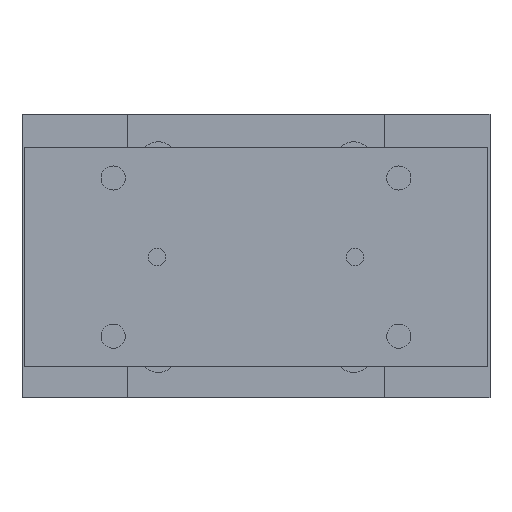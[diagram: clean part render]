
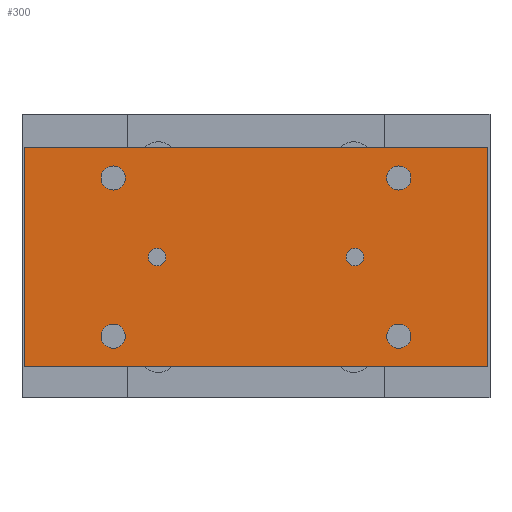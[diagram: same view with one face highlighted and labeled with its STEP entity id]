
A CAD part, left-side view. The second image highlights one B-rep face of the part: STEP entity #300.
In plain terms, the highlighted planar face has unit normal (-1, 0, 0).
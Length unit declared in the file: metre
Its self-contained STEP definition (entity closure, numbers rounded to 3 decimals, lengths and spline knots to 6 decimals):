
#300 = ADVANCED_FACE( '', ( #785, #786, #787, #788, #789, #790, #791 ), #792, .T. );
#785 = FACE_BOUND( '', #1583, .T. );
#786 = FACE_BOUND( '', #1584, .T. );
#787 = FACE_BOUND( '', #1585, .T. );
#788 = FACE_BOUND( '', #1586, .T. );
#789 = FACE_BOUND( '', #1587, .T. );
#790 = FACE_BOUND( '', #1588, .T. );
#791 = FACE_OUTER_BOUND( '', #1589, .T. );
#792 = PLANE( '', #1590 );
#1583 = EDGE_LOOP( '', ( #2475 ) );
#1584 = EDGE_LOOP( '', ( #2476 ) );
#1585 = EDGE_LOOP( '', ( #2477 ) );
#1586 = EDGE_LOOP( '', ( #2478 ) );
#1587 = EDGE_LOOP( '', ( #2479 ) );
#1588 = EDGE_LOOP( '', ( #2480 ) );
#1589 = EDGE_LOOP( '', ( #2481, #2482, #2483, #2484 ) );
#1590 = AXIS2_PLACEMENT_3D( '', #2485, #2486, #2487 );
#2475 = ORIENTED_EDGE( '', *, *, #3781, .F. );
#2476 = ORIENTED_EDGE( '', *, *, #3890, .F. );
#2477 = ORIENTED_EDGE( '', *, *, #3891, .F. );
#2478 = ORIENTED_EDGE( '', *, *, #3892, .F. );
#2479 = ORIENTED_EDGE( '', *, *, #3893, .F. );
#2480 = ORIENTED_EDGE( '', *, *, #3894, .T. );
#2481 = ORIENTED_EDGE( '', *, *, #3895, .T. );
#2482 = ORIENTED_EDGE( '', *, *, #3836, .T. );
#2483 = ORIENTED_EDGE( '', *, *, #3896, .T. );
#2484 = ORIENTED_EDGE( '', *, *, #3897, .T. );
#2485 = CARTESIAN_POINT( '', ( -0.1445, -0.1055, -0.015 ) );
#2486 = DIRECTION( '', ( -1., 0., 0. ) );
#2487 = DIRECTION( '', ( 0., -1., 0. ) );
#3781 = EDGE_CURVE( '', #4340, #4340, #4341, .T. );
#3836 = EDGE_CURVE( '', #4434, #4432, #4435, .T. );
#3890 = EDGE_CURVE( '', #4524, #4524, #4525, .T. );
#3891 = EDGE_CURVE( '', #4526, #4526, #4527, .T. );
#3892 = EDGE_CURVE( '', #4528, #4528, #4529, .T. );
#3893 = EDGE_CURVE( '', #4530, #4530, #4531, .T. );
#3894 = EDGE_CURVE( '', #4532, #4532, #4533, .T. );
#3895 = EDGE_CURVE( '', #4534, #4434, #4535, .T. );
#3896 = EDGE_CURVE( '', #4432, #4536, #4537, .T. );
#3897 = EDGE_CURVE( '', #4536, #4534, #4538, .T. );
#4340 = VERTEX_POINT( '', #5161 );
#4341 = CIRCLE( '', #5162, 0.0055 );
#4432 = VERTEX_POINT( '', #5276 );
#4434 = VERTEX_POINT( '', #5279 );
#4435 = LINE( '', #5280, #5281 );
#4524 = VERTEX_POINT( '', #5395 );
#4525 = CIRCLE( '', #5396, 0.0055 );
#4526 = VERTEX_POINT( '', #5397 );
#4527 = CIRCLE( '', #5398, 0.0055 );
#4528 = VERTEX_POINT( '', #5399 );
#4529 = CIRCLE( '', #5400, 0.0055 );
#4530 = VERTEX_POINT( '', #5401 );
#4531 = CIRCLE( '', #5402, 0.004 );
#4532 = VERTEX_POINT( '', #5403 );
#4533 = CIRCLE( '', #5404, 0.004 );
#4534 = VERTEX_POINT( '', #5405 );
#4535 = LINE( '', #5406, #5407 );
#4536 = VERTEX_POINT( '', #5408 );
#4537 = LINE( '', #5409, #5410 );
#4538 = LINE( '', #5411, #5412 );
#5161 = CARTESIAN_POINT( '', ( -0.1445, -0.0705, -0.101 ) );
#5162 = AXIS2_PLACEMENT_3D( '', #6433, #6434, #6435 );
#5276 = CARTESIAN_POINT( '', ( -0.1445, 0.1055, -0.015 ) );
#5279 = CARTESIAN_POINT( '', ( -0.1445, -0.1055, -0.015 ) );
#5280 = CARTESIAN_POINT( '', ( -0.1445, -0.1055, -0.015 ) );
#5281 = VECTOR( '', #6508, 1. );
#5395 = CARTESIAN_POINT( '', ( -0.1445, 0.0595, -0.101 ) );
#5396 = AXIS2_PLACEMENT_3D( '', #6576, #6577, #6578 );
#5397 = CARTESIAN_POINT( '', ( -0.1445, -0.0705, -0.029 ) );
#5398 = AXIS2_PLACEMENT_3D( '', #6579, #6580, #6581 );
#5399 = CARTESIAN_POINT( '', ( -0.1445, 0.0595, -0.029 ) );
#5400 = AXIS2_PLACEMENT_3D( '', #6582, #6583, #6584 );
#5401 = CARTESIAN_POINT( '', ( -0.1445, -0.045, -0.069 ) );
#5402 = AXIS2_PLACEMENT_3D( '', #6585, #6586, #6587 );
#5403 = CARTESIAN_POINT( '', ( -0.1445, 0.045, -0.069 ) );
#5404 = AXIS2_PLACEMENT_3D( '', #6588, #6589, #6590 );
#5405 = CARTESIAN_POINT( '', ( -0.1445, -0.1055, -0.115 ) );
#5406 = CARTESIAN_POINT( '', ( -0.1445, -0.1055, -0.115 ) );
#5407 = VECTOR( '', #6591, 1. );
#5408 = CARTESIAN_POINT( '', ( -0.1445, 0.1055, -0.115 ) );
#5409 = CARTESIAN_POINT( '', ( -0.1445, 0.1055, -0.015 ) );
#5410 = VECTOR( '', #6592, 1. );
#5411 = CARTESIAN_POINT( '', ( -0.1445, 0.1055, -0.115 ) );
#5412 = VECTOR( '', #6593, 1. );
#6433 = CARTESIAN_POINT( '', ( -0.1445, -0.065, -0.101 ) );
#6434 = DIRECTION( '', ( -1., 0., 0. ) );
#6435 = DIRECTION( '', ( 0., -1., 0. ) );
#6508 = DIRECTION( '', ( 0., 1., 0. ) );
#6576 = CARTESIAN_POINT( '', ( -0.1445, 0.065, -0.101 ) );
#6577 = DIRECTION( '', ( -1., 0., 0. ) );
#6578 = DIRECTION( '', ( 0., -1., 0. ) );
#6579 = CARTESIAN_POINT( '', ( -0.1445, -0.065, -0.029 ) );
#6580 = DIRECTION( '', ( -1., 0., 0. ) );
#6581 = DIRECTION( '', ( 0., -1., 0. ) );
#6582 = CARTESIAN_POINT( '', ( -0.1445, 0.065, -0.029 ) );
#6583 = DIRECTION( '', ( -1., 0., 0. ) );
#6584 = DIRECTION( '', ( 0., -1., 0. ) );
#6585 = CARTESIAN_POINT( '', ( -0.1445, -0.045, -0.065 ) );
#6586 = DIRECTION( '', ( -1., 0., 0. ) );
#6587 = DIRECTION( '', ( 0., 0., -1. ) );
#6588 = CARTESIAN_POINT( '', ( -0.1445, 0.045, -0.065 ) );
#6589 = DIRECTION( '', ( 1., 0., 0. ) );
#6590 = DIRECTION( '', ( 0., 0., -1. ) );
#6591 = DIRECTION( '', ( 0., 0., 1. ) );
#6592 = DIRECTION( '', ( 0., 0., -1. ) );
#6593 = DIRECTION( '', ( 0., -1., 0. ) );
